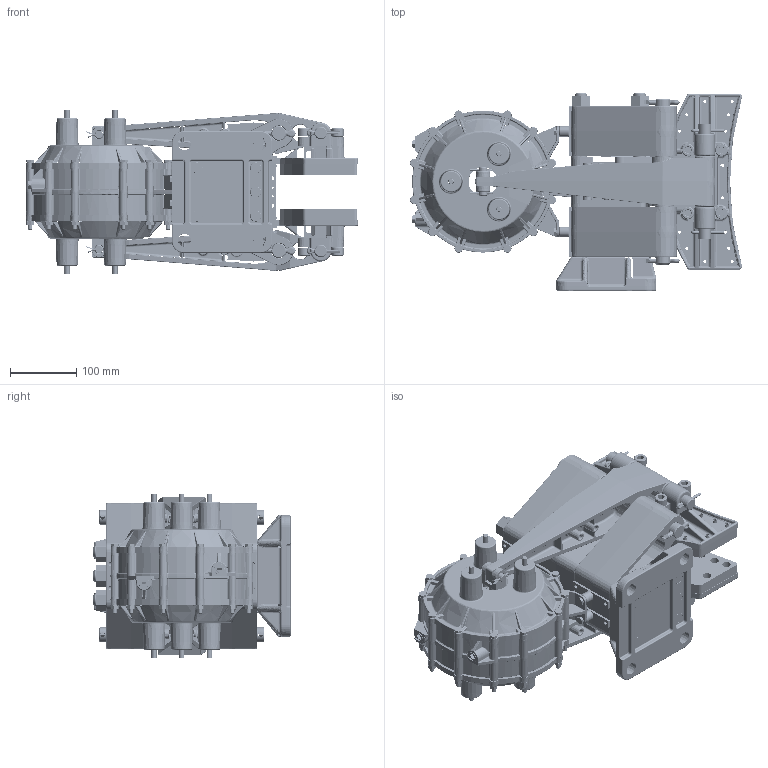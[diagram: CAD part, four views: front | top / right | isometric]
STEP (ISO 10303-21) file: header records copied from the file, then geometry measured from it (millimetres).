
FILE_DESCRIPTION (( 'STEP AP214' ), '1' );
FILE_NAME ('5024-A.STEP', '2020-05-29T15:33:15', ( '' ), ( '' ), 'SwSTEP 2.0', 'SolidWorks 2019', '' );
FILE_SCHEMA (( 'AUTOMOTIVE_DESIGN' ));
Length unit declared in the file: inch
Products named in the file (2): 5024-A
Bounding box: 502.87 x 298.45 x 248.54 mm (x, y, z)
Surface area: 1272457.4 mm2 (no closed solid volume)
Topology: 0 solids, 176 shells, 4883 faces, 14714 edges, 9438 vertices
Faces by surface type: cylinder 1339, plane 1152, bspline 975, cone 801, torus 581, sphere 35
Entity records: 292201 total; most frequent: CARTESIAN_POINT 109488, ORIENTED_EDGE 24074, DIRECTION 23785, EDGE_CURVE 14628, AXIS2_PLACEMENT_3D 9626, VERTEX_POINT 9438, CIRCLE 5716, EDGE_LOOP 5318
